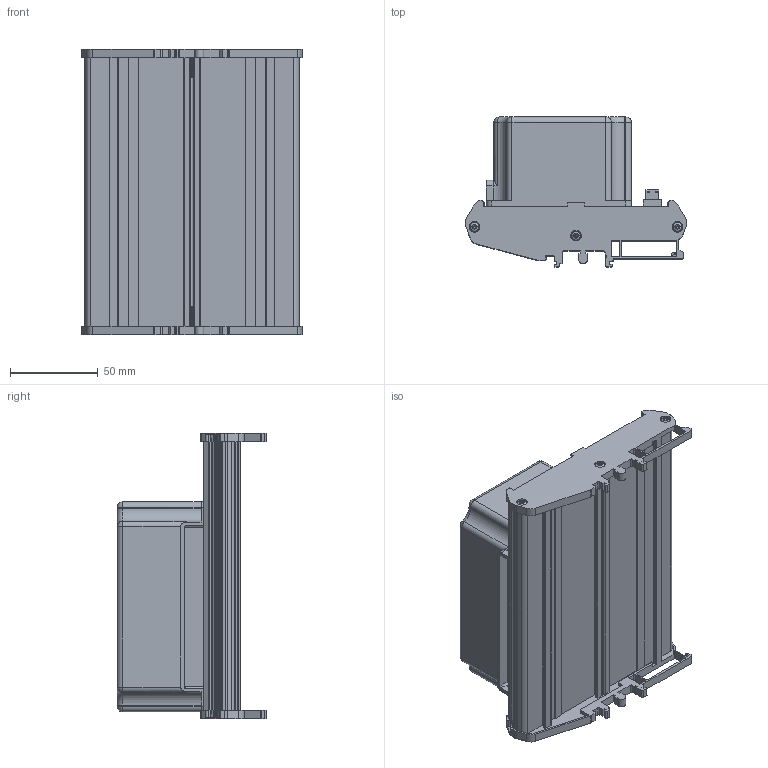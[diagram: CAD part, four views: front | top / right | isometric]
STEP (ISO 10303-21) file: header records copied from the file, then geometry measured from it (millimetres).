
FILE_DESCRIPTION((''),'2;1');
FILE_NAME('CD-TBX-68T','2008-03-18T',('scarrasc'),(''),'PRO/ENGINEER BY PARAMETRIC TECHNOLOGY CORPORATION, 2006080','PRO/ENGINEER BY PARAMETRIC TECHNOLOGY CORPORATION, 2006080','');
FILE_SCHEMA(('CONFIG_CONTROL_DESIGN'));
Length unit declared in the file: inch
Products named in the file (1): CD-TBX-68T
Bounding box: 125.4 x 85.23 x 162.49 mm (x, y, z)
Volume: 166072 mm3; surface area: 170318.7 mm2
Topology: 2 solids, 3 shells, 1605 faces, 4310 edges, 2724 vertices
Faces by surface type: plane 778, cylinder 567, cone 196, torus 36, sphere 28
Entity records: 51159 total; most frequent: CARTESIAN_POINT 10371, DIRECTION 8686, ORIENTED_EDGE 8572, EDGE_CURVE 4286, AXIS2_PLACEMENT_3D 3030, VERTEX_POINT 2724, VECTOR 2626, LINE 2626
